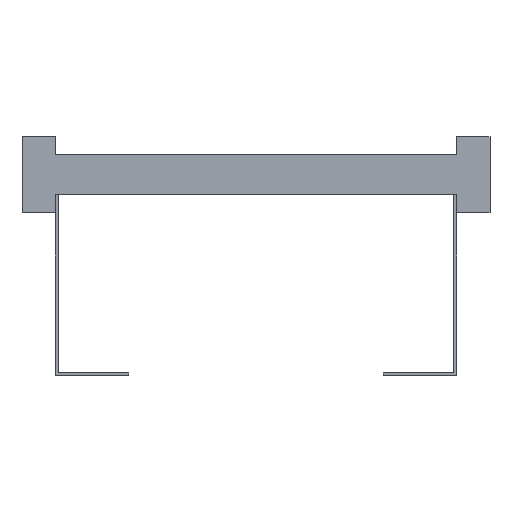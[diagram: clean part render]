
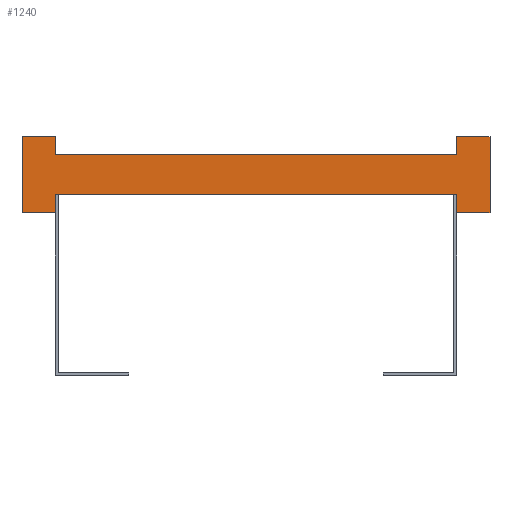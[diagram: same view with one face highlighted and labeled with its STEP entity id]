
A CAD part, front view. The second image highlights one B-rep face of the part: STEP entity #1240.
In plain terms, the highlighted planar face has unit normal (0, -1, 0).
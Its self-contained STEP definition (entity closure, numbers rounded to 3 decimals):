
#1=DIRECTION('',(0.,0.,1.));
#2=VECTOR('',#1,13.5);
#3=CARTESIAN_POINT('',(150.,0.,-28.5));
#4=LINE('',#3,#2);
#5=DIRECTION('',(0.,0.,-1.));
#6=VECTOR('',#5,13.5);
#7=CARTESIAN_POINT('',(-150.,0.,-15.));
#8=LINE('',#7,#6);
#9=DIRECTION('',(-1.,0.,0.));
#10=VECTOR('',#9,25.);
#11=CARTESIAN_POINT('',(-150.,0.,-28.5));
#12=LINE('',#11,#10);
#13=DIRECTION('',(0.,0.,1.));
#14=VECTOR('',#13,57.);
#15=CARTESIAN_POINT('',(-175.,0.,-28.5));
#16=LINE('',#15,#14);
#17=DIRECTION('',(1.,0.,0.));
#18=VECTOR('',#17,25.);
#19=CARTESIAN_POINT('',(-175.,0.,28.5));
#20=LINE('',#19,#18);
#21=DIRECTION('',(0.,0.,-1.));
#22=VECTOR('',#21,13.5);
#23=CARTESIAN_POINT('',(-150.,0.,28.5));
#24=LINE('',#23,#22);
#25=DIRECTION('',(0.,0.,1.));
#26=VECTOR('',#25,13.5);
#27=CARTESIAN_POINT('',(150.,0.,15.));
#28=LINE('',#27,#26);
#29=DIRECTION('',(1.,0.,0.));
#30=VECTOR('',#29,25.);
#31=CARTESIAN_POINT('',(150.,0.,28.5));
#32=LINE('',#31,#30);
#33=DIRECTION('',(0.,0.,-1.));
#34=VECTOR('',#33,57.);
#35=CARTESIAN_POINT('',(175.,0.,28.5));
#36=LINE('',#35,#34);
#37=DIRECTION('',(-1.,0.,0.));
#38=VECTOR('',#37,25.);
#39=CARTESIAN_POINT('',(175.,0.,-28.5));
#40=LINE('',#39,#38);
#897=DIRECTION('',(1.,0.,0.));
#898=VECTOR('',#897,300.);
#899=CARTESIAN_POINT('',(-150.,0.,-15.));
#900=LINE('',#899,#898);
#909=DIRECTION('',(1.,0.,0.));
#910=VECTOR('',#909,300.);
#911=CARTESIAN_POINT('',(-150.,0.,15.));
#912=LINE('',#911,#910);
#913=CARTESIAN_POINT('',(-175.,0.,28.5));
#914=CARTESIAN_POINT('',(-150.,0.,28.5));
#915=VERTEX_POINT('',#913);
#916=VERTEX_POINT('',#914);
#917=CARTESIAN_POINT('',(-150.,0.,-28.5));
#918=CARTESIAN_POINT('',(-175.,0.,-28.5));
#919=VERTEX_POINT('',#917);
#920=VERTEX_POINT('',#918);
#921=CARTESIAN_POINT('',(175.,0.,28.5));
#922=CARTESIAN_POINT('',(175.,0.,-28.5));
#923=VERTEX_POINT('',#921);
#924=VERTEX_POINT('',#922);
#925=CARTESIAN_POINT('',(150.,0.,-28.5));
#926=VERTEX_POINT('',#925);
#927=CARTESIAN_POINT('',(150.,0.,28.5));
#928=VERTEX_POINT('',#927);
#945=CARTESIAN_POINT('',(-150.,0.,-15.));
#947=VERTEX_POINT('',#945);
#949=CARTESIAN_POINT('',(-150.,0.,15.));
#951=VERTEX_POINT('',#949);
#953=CARTESIAN_POINT('',(150.,0.,-15.));
#955=VERTEX_POINT('',#953);
#957=CARTESIAN_POINT('',(150.,0.,15.));
#959=VERTEX_POINT('',#957);
#1209=CARTESIAN_POINT('',(0.,0.,0.));
#1210=DIRECTION('',(0.,1.,0.));
#1211=DIRECTION('',(1.,0.,0.));
#1212=AXIS2_PLACEMENT_3D('',#1209,#1210,#1211);
#1213=PLANE('',#1212);
#1215=ORIENTED_EDGE('',*,*,#1214,.T.);
#1217=ORIENTED_EDGE('',*,*,#1216,.F.);
#1219=ORIENTED_EDGE('',*,*,#1218,.T.);
#1221=ORIENTED_EDGE('',*,*,#1220,.T.);
#1223=ORIENTED_EDGE('',*,*,#1222,.T.);
#1225=ORIENTED_EDGE('',*,*,#1224,.T.);
#1227=ORIENTED_EDGE('',*,*,#1226,.T.);
#1229=ORIENTED_EDGE('',*,*,#1228,.T.);
#1231=ORIENTED_EDGE('',*,*,#1230,.T.);
#1233=ORIENTED_EDGE('',*,*,#1232,.T.);
#1235=ORIENTED_EDGE('',*,*,#1234,.T.);
#1237=ORIENTED_EDGE('',*,*,#1236,.T.);
#1238=EDGE_LOOP('',(#1215,#1217,#1219,#1221,#1223,#1225,#1227,#1229,#1231,#1233,
#1235,#1237));
#1239=FACE_OUTER_BOUND('',#1238,.F.);
#1240=ADVANCED_FACE('',(#1239),#1213,.F.);
#1214=EDGE_CURVE('',#926,#955,#4,.T.);
#1216=EDGE_CURVE('',#947,#955,#900,.T.);
#1218=EDGE_CURVE('',#947,#919,#8,.T.);
#1220=EDGE_CURVE('',#919,#920,#12,.T.);
#1222=EDGE_CURVE('',#920,#915,#16,.T.);
#1224=EDGE_CURVE('',#915,#916,#20,.T.);
#1226=EDGE_CURVE('',#916,#951,#24,.T.);
#1228=EDGE_CURVE('',#951,#959,#912,.T.);
#1230=EDGE_CURVE('',#959,#928,#28,.T.);
#1232=EDGE_CURVE('',#928,#923,#32,.T.);
#1234=EDGE_CURVE('',#923,#924,#36,.T.);
#1236=EDGE_CURVE('',#924,#926,#40,.T.);
